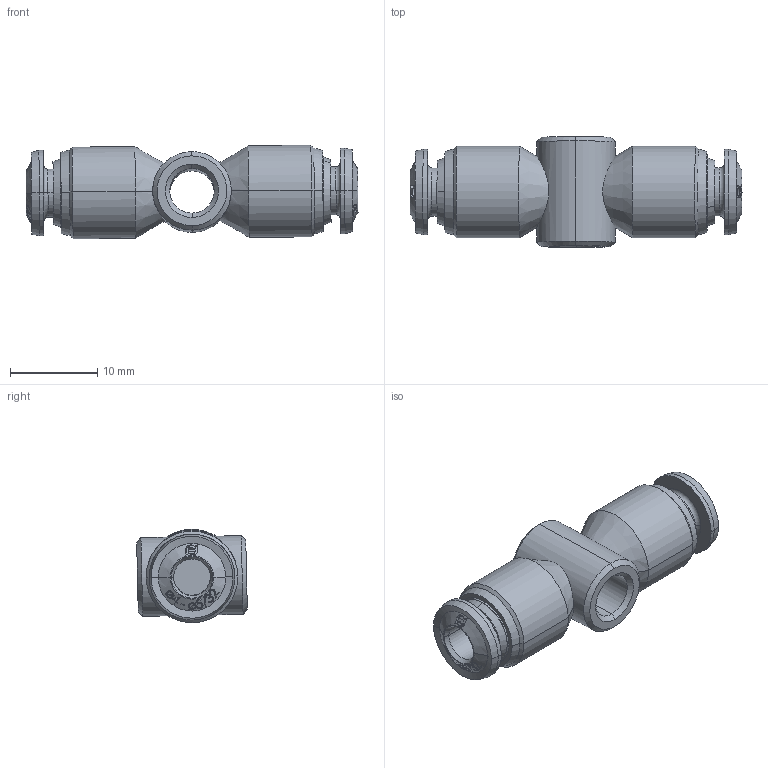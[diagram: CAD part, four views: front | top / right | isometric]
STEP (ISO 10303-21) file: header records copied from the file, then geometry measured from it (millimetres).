
FILE_DESCRIPTION (( 'STEP AP214' ), '1' );
FILE_NAME ('5051000001.step', '2012-10-01T16:56:04', ( '' ), ( '' ), 'SwSTEP 2.0', 'SolidWorks 2012', '' );
FILE_SCHEMA (( 'AUTOMOTIVE_DESIGN' ));
Length unit declared in the file: millimetre
Products named in the file (1): 5051000001
Bounding box: 38.04 x 12.68 x 10.71 mm (x, y, z)
Volume: 2431.4 mm3; surface area: 2185.1 mm2
Topology: 1 solids, 3 shells, 388 faces, 966 edges, 622 vertices
Faces by surface type: bspline 232, cone 84, cylinder 46, plane 18, torus 8
Entity records: 24486 total; most frequent: CARTESIAN_POINT 12917, ORIENTED_EDGE 1924, EDGE_CURVE 962, DIRECTION 728, B_SPLINE_CURVE_WITH_KNOTS 706, VERTEX_POINT 622, EDGE_LOOP 436, UNCERTAINTY_MEASURE_WITH_UNIT 391
